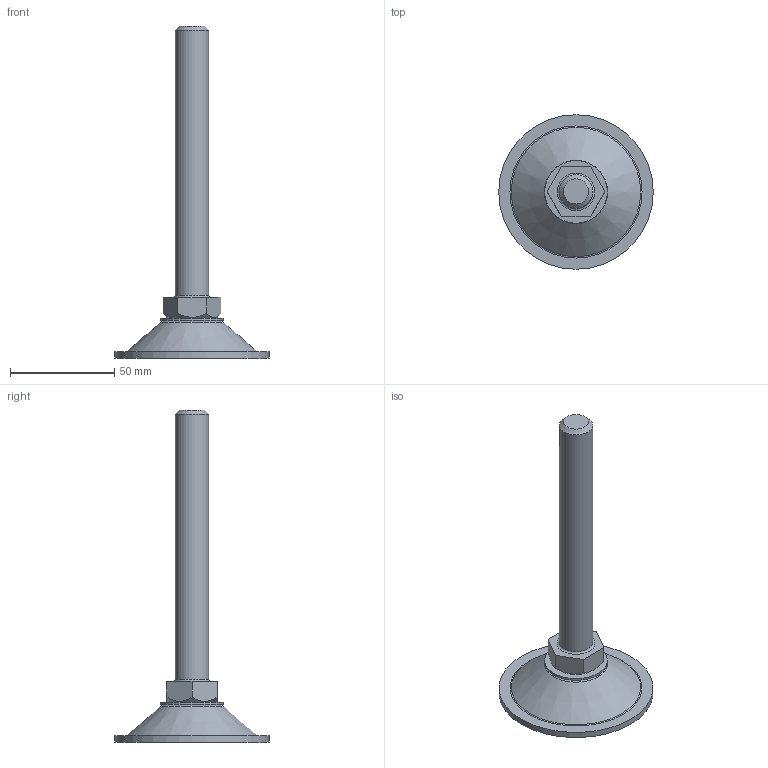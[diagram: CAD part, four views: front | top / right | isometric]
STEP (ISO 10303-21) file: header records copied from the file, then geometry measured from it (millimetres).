
FILE_DESCRIPTION(/* description */ (''),/* implementation_level */ '2;1');
FILE_NAME(/* name */ 'D:\조절자\PF\PF-M16-130L.stp',/* time_stamp */ '2016-03-14T14:55:56+09:00',/* author */ ('GS-DT-1-001'),/* organization */ (''),/* preprocessor_version */ 'ST-DEVELOPER v15.6',/* originating_system */ 'Autodesk Inventor LT ',/* authorisation */ '');
FILE_SCHEMA (('AUTOMOTIVE_DESIGN { 1 0 10303 214 3 1 1 }'));
Length unit declared in the file: millimetre
Products named in the file (1): PF-M16-130L
Bounding box: 74 x 74 x 159 mm (x, y, z)
Volume: 47595.9 mm3; surface area: 21503.1 mm2
Topology: 4 solids, 4 shells, 37 faces, 70 edges, 45 vertices
Faces by surface type: plane 18, cylinder 8, cone 6, torus 5
Full cylindrical faces by diameter (mm): 6.912 x1, 8 x1, 8.2 x1, 8.3 x1, 16 x2, 30 x1, 74 x1
Entity records: 815 total; most frequent: DIRECTION 144, CARTESIAN_POINT 136, ORIENTED_EDGE 92, AXIS2_PLACEMENT_3D 66, EDGE_LOOP 64, EDGE_CURVE 46, VERTEX_POINT 40, FACE_OUTER_BOUND 37
